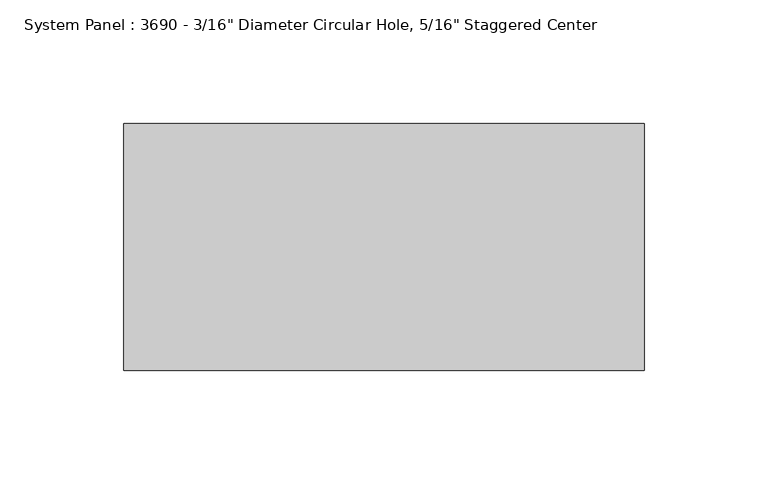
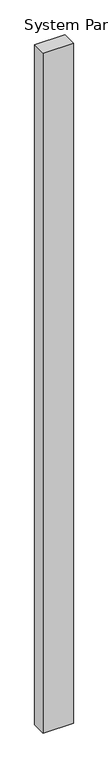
"""IFC4 building model written with IfcOpenShell, lengths in millimetres: plate geometry."""

from ifc_helpers import new_model, si_unit, origin, origin_with_axes, place, context, project, spatial, polyline, outline, extrude, source, transform, mapped, element, save


def plate_6da359c8(model_context):
    return source(origin(), model_context, "Body", "SweptSolid", [
        extrude(outline(polyline([(105.3999998, -50.0), (-105.3999998, -50.0), (-105.3999998, 50.0), (105.3999998, 50.0), (105.3999998, -50.0)])), origin_with_axes(), (0.0, 0.0, 1.0), 5000.0),
    ])


if __name__ == "__main__":
    model = new_model("IFC4")
    model_context = context("Model", 3, world=origin())
    ifc_project = project(units=[si_unit("LENGTHUNIT", "METRE", prefix="MILLI")], contexts=[model_context])
    site = spatial("IfcSite", under=ifc_project)
    building = spatial("IfcBuilding", under=site)
    placement = place(None, origin())
    plate_shape = plate_6da359c8(model_context)
    element("IfcPlate", 1, ObjectType="System Panel : 3690 - 3/16\" Diameter Circular Hole, 5/16\" Staggered Center", at=placement, inside=building, context=model_context, shape_type="MappedRepresentation", body=[
        mapped(plate_shape, transform((0.0, 0.0, 0.0), x_axis=(1.0, 0.0, 0.0), y_axis=(0.0, 1.0, 0.0), z_axis=(0.0, 0.0, 1.0))),
    ])
    save(model, "model.ifc")
